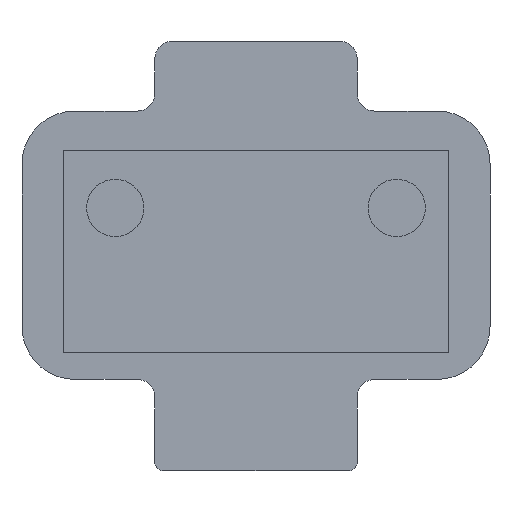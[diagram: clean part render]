
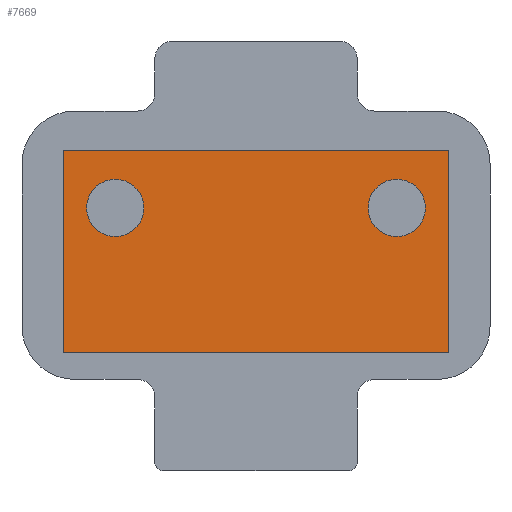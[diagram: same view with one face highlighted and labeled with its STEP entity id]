
A CAD part, front view. The second image highlights one B-rep face of the part: STEP entity #7669.
In plain terms, the highlighted planar face has unit normal (0, -1, 0).
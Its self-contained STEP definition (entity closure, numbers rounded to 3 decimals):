
#22 = DIRECTION ( 'NONE',  ( -1., 0., 0. ) ) ;
#52 = CARTESIAN_POINT ( 'NONE',  ( -8.173, 23.414, 35.49 ) ) ;
#191 = CIRCLE ( 'NONE', #1495, 3.25 ) ;
#262 = EDGE_CURVE ( 'NONE', #3248, #6940, #3951, .T. ) ;
#366 = ORIENTED_EDGE ( 'NONE', *, *, #5056, .F. ) ;
#709 = FACE_BOUND ( 'NONE', #8784, .T. ) ;
#756 = LINE ( 'NONE', #6818, #2669 ) ;
#775 = DIRECTION ( 'NONE',  ( 0., -1., 0. ) ) ;
#805 = DIRECTION ( 'NONE',  ( 0., 0., 1. ) ) ;
#1385 = ORIENTED_EDGE ( 'NONE', *, *, #1405, .T. ) ;
#1405 = EDGE_CURVE ( 'NONE', #4773, #7844, #7053, .T. ) ;
#1430 = CARTESIAN_POINT ( 'NONE',  ( -14.073, 23.414, 45.235 ) ) ;
#1495 = AXIS2_PLACEMENT_3D ( 'NONE', #2098, #775, #4889 ) ;
#1578 = CARTESIAN_POINT ( 'NONE',  ( -14.073, 23.414, 22.241 ) ) ;
#1668 = CARTESIAN_POINT ( 'NONE',  ( 29.727, 23.414, 56.011 ) ) ;
#1793 = DIRECTION ( 'NONE',  ( 0., 0., 1. ) ) ;
#2098 = CARTESIAN_POINT ( 'NONE',  ( -8.173, 23.414, 38.74 ) ) ;
#2112 = CARTESIAN_POINT ( 'NONE',  ( 23.827, 23.414, 35.49 ) ) ;
#2137 = EDGE_CURVE ( 'NONE', #3151, #6969, #191, .T. ) ;
#2167 = VECTOR ( 'NONE', #4965, 1000. ) ;
#2494 = DIRECTION ( 'NONE',  ( 0., 0., 1. ) ) ;
#2608 = VERTEX_POINT ( 'NONE', #1578 ) ;
#2669 = VECTOR ( 'NONE', #22, 1000. ) ;
#2699 = DIRECTION ( 'NONE',  ( 0., 0., 1. ) ) ;
#2706 = ORIENTED_EDGE ( 'NONE', *, *, #6834, .F. ) ;
#2772 = EDGE_CURVE ( 'NONE', #4773, #2608, #756, .T. ) ;
#2896 = LINE ( 'NONE', #7646, #7518 ) ;
#3151 = VERTEX_POINT ( 'NONE', #5182 ) ;
#3248 = VERTEX_POINT ( 'NONE', #2112 ) ;
#3251 = EDGE_LOOP ( 'NONE', ( #1385, #3412, #366, #5990 ) ) ;
#3354 = CARTESIAN_POINT ( 'NONE',  ( -7.618, 23.414, 38.507 ) ) ;
#3356 = CARTESIAN_POINT ( 'NONE',  ( -8.173, 23.414, 38.74 ) ) ;
#3387 = DIRECTION ( 'NONE',  ( 0., -1., 0. ) ) ;
#3412 = ORIENTED_EDGE ( 'NONE', *, *, #8501, .F. ) ;
#3535 = FACE_OUTER_BOUND ( 'NONE', #3251, .T. ) ;
#3695 = ORIENTED_EDGE ( 'NONE', *, *, #6103, .F. ) ;
#3701 = CARTESIAN_POINT ( 'NONE',  ( 29.727, 23.414, 45.235 ) ) ;
#3951 = CIRCLE ( 'NONE', #5412, 3.25 ) ;
#3972 = VECTOR ( 'NONE', #805, 1000. ) ;
#4171 = EDGE_LOOP ( 'NONE', ( #2706, #8633 ) ) ;
#4220 = DIRECTION ( 'NONE',  ( 0., 1., 0. ) ) ;
#4270 = CARTESIAN_POINT ( 'NONE',  ( -14.073, 23.414, 45.235 ) ) ;
#4773 = VERTEX_POINT ( 'NONE', #6197 ) ;
#4889 = DIRECTION ( 'NONE',  ( 0., 0., 1. ) ) ;
#4916 = FACE_BOUND ( 'NONE', #4171, .T. ) ;
#4965 = DIRECTION ( 'NONE',  ( 1., 0., 0. ) ) ;
#5056 = EDGE_CURVE ( 'NONE', #2608, #5423, #2896, .T. ) ;
#5182 = CARTESIAN_POINT ( 'NONE',  ( -8.173, 23.414, 41.99 ) ) ;
#5412 = AXIS2_PLACEMENT_3D ( 'NONE', #6175, #3387, #2699 ) ;
#5423 = VERTEX_POINT ( 'NONE', #1430 ) ;
#5642 = LINE ( 'NONE', #4270, #2167 ) ;
#5675 = AXIS2_PLACEMENT_3D ( 'NONE', #3354, #4220, #6999 ) ;
#5990 = ORIENTED_EDGE ( 'NONE', *, *, #2772, .F. ) ;
#6103 = EDGE_CURVE ( 'NONE', #6969, #3151, #8842, .T. ) ;
#6175 = CARTESIAN_POINT ( 'NONE',  ( 23.827, 23.414, 38.74 ) ) ;
#6197 = CARTESIAN_POINT ( 'NONE',  ( 29.727, 23.414, 22.241 ) ) ;
#6368 = DIRECTION ( 'NONE',  ( 0., 0., 1. ) ) ;
#6818 = CARTESIAN_POINT ( 'NONE',  ( 30.327, 23.414, 22.241 ) ) ;
#6834 = EDGE_CURVE ( 'NONE', #6940, #3248, #7834, .T. ) ;
#6940 = VERTEX_POINT ( 'NONE', #7677 ) ;
#6969 = VERTEX_POINT ( 'NONE', #52 ) ;
#6999 = DIRECTION ( 'NONE',  ( -1., 0., 0. ) ) ;
#7053 = LINE ( 'NONE', #1668, #3972 ) ;
#7383 = AXIS2_PLACEMENT_3D ( 'NONE', #3356, #8925, #2494 ) ;
#7455 = CARTESIAN_POINT ( 'NONE',  ( 23.827, 23.414, 38.74 ) ) ;
#7518 = VECTOR ( 'NONE', #6368, 1000. ) ;
#7646 = CARTESIAN_POINT ( 'NONE',  ( -14.073, 23.414, 24.311 ) ) ;
#7669 = ADVANCED_FACE ( 'NONE', ( #3535, #4916, #709 ), #9012, .F. ) ;
#7677 = CARTESIAN_POINT ( 'NONE',  ( 23.827, 23.414, 41.99 ) ) ;
#7834 = CIRCLE ( 'NONE', #8419, 3.25 ) ;
#7844 = VERTEX_POINT ( 'NONE', #3701 ) ;
#7963 = ORIENTED_EDGE ( 'NONE', *, *, #2137, .F. ) ;
#8139 = DIRECTION ( 'NONE',  ( 0., -1., 0. ) ) ;
#8419 = AXIS2_PLACEMENT_3D ( 'NONE', #7455, #8139, #1793 ) ;
#8501 = EDGE_CURVE ( 'NONE', #5423, #7844, #5642, .T. ) ;
#8633 = ORIENTED_EDGE ( 'NONE', *, *, #262, .F. ) ;
#8784 = EDGE_LOOP ( 'NONE', ( #7963, #3695 ) ) ;
#8842 = CIRCLE ( 'NONE', #7383, 3.25 ) ;
#8925 = DIRECTION ( 'NONE',  ( 0., -1., 0. ) ) ;
#9012 = PLANE ( 'NONE',  #5675 ) ;
